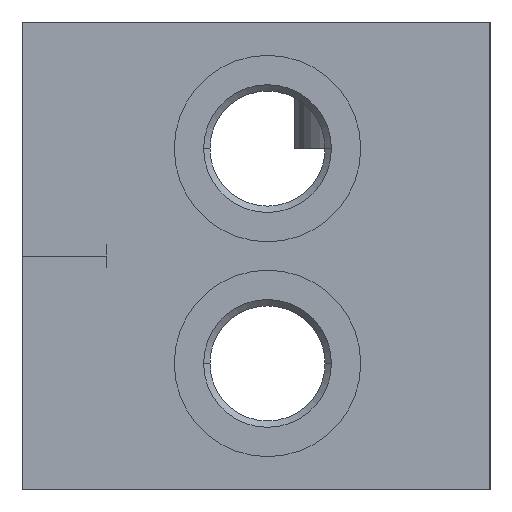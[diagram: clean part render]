
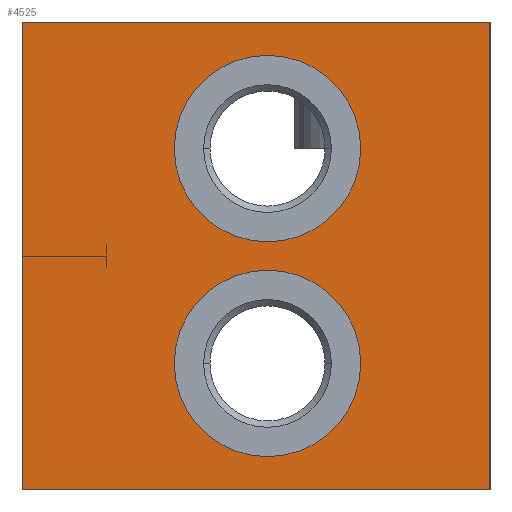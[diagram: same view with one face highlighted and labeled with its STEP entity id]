
A CAD part, left-side view. The second image highlights one B-rep face of the part: STEP entity #4525.
In plain terms, the highlighted planar face has unit normal (-1, 0, 0).
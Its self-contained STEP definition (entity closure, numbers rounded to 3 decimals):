
#25=DIRECTION('',(0.,-1.,0.));
#26=VECTOR('',#25,61.);
#27=CARTESIAN_POINT('',(0.,61.,0.));
#28=LINE('',#27,#26);
#117=DIRECTION('',(0.,0.,-1.));
#118=VECTOR('',#117,61.);
#119=CARTESIAN_POINT('',(0.,0.,0.));
#120=LINE('',#119,#118);
#759=DIRECTION('',(0.,0.,-1.));
#760=VECTOR('',#759,61.);
#761=CARTESIAN_POINT('',(0.,61.,0.));
#762=LINE('',#761,#760);
#763=CARTESIAN_POINT('',(0.,29.,-44.5));
#764=DIRECTION('',(1.,0.,0.));
#765=DIRECTION('',(0.,-1.,0.));
#766=AXIS2_PLACEMENT_3D('',#763,#764,#765);
#768=CARTESIAN_POINT('',(0.,29.,-44.5));
#769=DIRECTION('',(1.,0.,0.));
#770=DIRECTION('',(0.,1.,0.));
#771=AXIS2_PLACEMENT_3D('',#768,#769,#770);
#773=CARTESIAN_POINT('',(0.,29.,-16.5));
#774=DIRECTION('',(1.,0.,0.));
#775=DIRECTION('',(0.,-1.,0.));
#776=AXIS2_PLACEMENT_3D('',#773,#774,#775);
#778=CARTESIAN_POINT('',(0.,29.,-16.5));
#779=DIRECTION('',(1.,0.,0.));
#780=DIRECTION('',(0.,1.,0.));
#781=AXIS2_PLACEMENT_3D('',#778,#779,#780);
#795=DIRECTION('',(0.,-1.,0.));
#796=VECTOR('',#795,61.);
#797=CARTESIAN_POINT('',(0.,61.,-61.));
#798=LINE('',#797,#796);
#3482=CARTESIAN_POINT('',(0.,0.,0.));
#3484=VERTEX_POINT('',#3482);
#3488=CARTESIAN_POINT('',(0.,61.,0.));
#3489=VERTEX_POINT('',#3488);
#3490=CARTESIAN_POINT('',(0.,0.,-61.));
#3492=VERTEX_POINT('',#3490);
#3496=CARTESIAN_POINT('',(0.,61.,-61.));
#3497=VERTEX_POINT('',#3496);
#3510=CARTESIAN_POINT('',(0.,16.85,-44.5));
#3511=CARTESIAN_POINT('',(0.,41.15,-44.5));
#3512=VERTEX_POINT('',#3510);
#3513=VERTEX_POINT('',#3511);
#3526=CARTESIAN_POINT('',(0.,16.85,-16.5));
#3527=CARTESIAN_POINT('',(0.,41.15,-16.5));
#3528=VERTEX_POINT('',#3526);
#3529=VERTEX_POINT('',#3527);
#4501=CARTESIAN_POINT('',(0.,61.,0.));
#4502=DIRECTION('',(-1.,0.,0.));
#4503=DIRECTION('',(0.,-1.,0.));
#4504=AXIS2_PLACEMENT_3D('',#4501,#4502,#4503);
#4505=PLANE('',#4504);
#4506=ORIENTED_EDGE('',*,*,#4185,.T.);
#4507=ORIENTED_EDGE('',*,*,#4252,.T.);
#4509=ORIENTED_EDGE('',*,*,#4508,.F.);
#4510=ORIENTED_EDGE('',*,*,#4331,.F.);
#4511=EDGE_LOOP('',(#4506,#4507,#4509,#4510));
#4512=FACE_OUTER_BOUND('',#4511,.F.);
#4514=ORIENTED_EDGE('',*,*,#4513,.F.);
#4516=ORIENTED_EDGE('',*,*,#4515,.F.);
#4517=EDGE_LOOP('',(#4514,#4516));
#4518=FACE_BOUND('',#4517,.F.);
#4520=ORIENTED_EDGE('',*,*,#4519,.F.);
#4522=ORIENTED_EDGE('',*,*,#4521,.F.);
#4523=EDGE_LOOP('',(#4520,#4522));
#4524=FACE_BOUND('',#4523,.F.);
#767=CIRCLE('',#766,12.15);
#772=CIRCLE('',#771,12.15);
#777=CIRCLE('',#776,12.15);
#782=CIRCLE('',#781,12.15);
#4185=EDGE_CURVE('',#3489,#3484,#28,.T.);
#4252=EDGE_CURVE('',#3484,#3492,#120,.T.);
#4331=EDGE_CURVE('',#3489,#3497,#762,.T.);
#4508=EDGE_CURVE('',#3497,#3492,#798,.T.);
#4513=EDGE_CURVE('',#3512,#3513,#767,.T.);
#4515=EDGE_CURVE('',#3513,#3512,#772,.T.);
#4519=EDGE_CURVE('',#3528,#3529,#777,.T.);
#4521=EDGE_CURVE('',#3529,#3528,#782,.T.);
#4525=ADVANCED_FACE('',(#4512,#4518,#4524),#4505,.T.);
